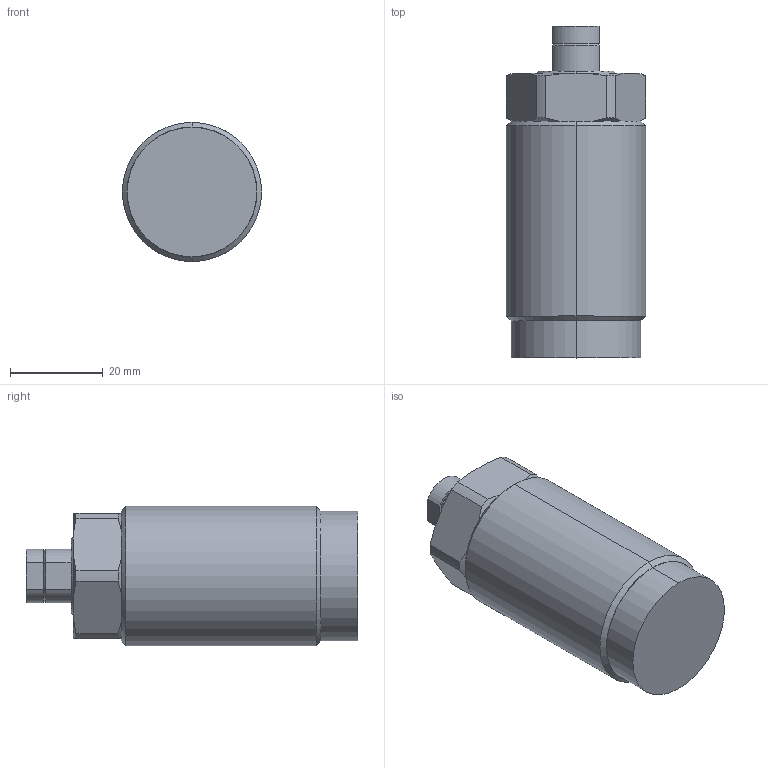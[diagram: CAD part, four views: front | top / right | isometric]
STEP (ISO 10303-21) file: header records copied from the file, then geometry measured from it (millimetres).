
FILE_DESCRIPTION (( 'STEP AP214' ), '1' );
FILE_NAME ('LSP-12B.STEP', '2021-10-18T08:46:43', ( '' ), ( '' ), 'SwSTEP 2.0', 'SolidWorks 2016', '' );
FILE_SCHEMA (( 'AUTOMOTIVE_DESIGN' ));
Length unit declared in the file: millimetre
Products named in the file (1): LSP-12B
Bounding box: 30 x 71.5 x 30 mm (x, y, z)
Volume: 42235.8 mm3; surface area: 7736.5 mm2
Topology: 1 solids, 2 shells, 66 faces, 154 edges, 94 vertices
Faces by surface type: plane 25, cone 23, cylinder 18
Entity records: 1981 total; most frequent: CARTESIAN_POINT 409, DIRECTION 323, ORIENTED_EDGE 304, EDGE_CURVE 152, AXIS2_PLACEMENT_3D 132, VERTEX_POINT 94, EDGE_LOOP 70, ADVANCED_FACE 66
